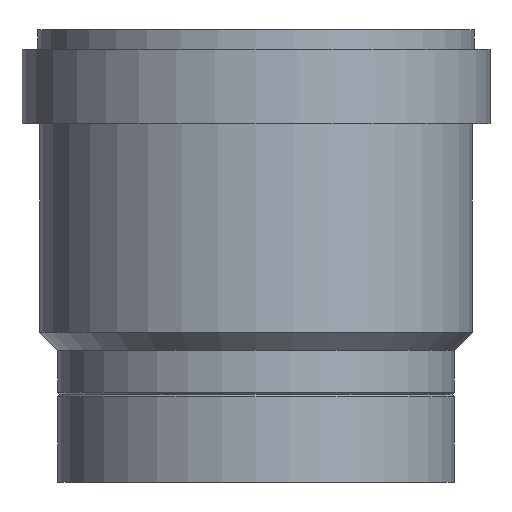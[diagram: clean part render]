
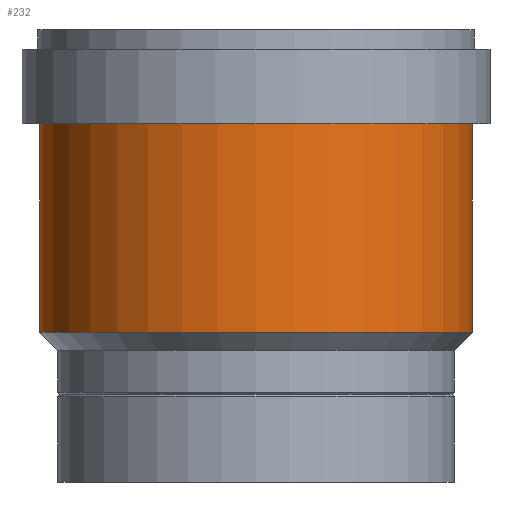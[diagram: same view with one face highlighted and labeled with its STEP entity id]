
A CAD part, front view. The second image highlights one B-rep face of the part: STEP entity #232.
In plain terms, the highlighted cylindrical face has radius 49.25 mm (diameter 98.5 mm), a full revolution.
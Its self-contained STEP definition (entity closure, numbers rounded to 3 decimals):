
#23=CYLINDRICAL_SURFACE('',#281,49.25);
#37=FACE_BOUND('',#84,.T.);
#56=FACE_OUTER_BOUND('',#83,.T.);
#83=EDGE_LOOP('',(#178));
#84=EDGE_LOOP('',(#179));
#114=CIRCLE('',#280,49.25);
#115=CIRCLE('',#282,49.25);
#133=VERTEX_POINT('',#406);
#134=VERTEX_POINT('',#409);
#152=EDGE_CURVE('',#133,#133,#114,.T.);
#153=EDGE_CURVE('',#134,#134,#115,.T.);
#178=ORIENTED_EDGE('',*,*,#152,.T.);
#179=ORIENTED_EDGE('',*,*,#153,.F.);
#232=ADVANCED_FACE('',(#56,#37),#23,.T.);
#280=AXIS2_PLACEMENT_3D('',#407,#337,#338);
#281=AXIS2_PLACEMENT_3D('',#408,#339,#340);
#282=AXIS2_PLACEMENT_3D('',#410,#341,#342);
#337=DIRECTION('center_axis',(0.,0.,-1.));
#338=DIRECTION('ref_axis',(1.,0.,0.));
#339=DIRECTION('center_axis',(0.,0.,-1.));
#340=DIRECTION('ref_axis',(-1.,0.,0.));
#341=DIRECTION('center_axis',(0.,0.,-1.));
#342=DIRECTION('ref_axis',(1.,0.,0.));
#406=CARTESIAN_POINT('',(-49.25,0.,-21.4));
#407=CARTESIAN_POINT('Origin',(0.,0.,-21.4));
#408=CARTESIAN_POINT('Origin',(0.,0.,-45.15));
#409=CARTESIAN_POINT('',(-49.25,0.,-68.9));
#410=CARTESIAN_POINT('Origin',(0.,0.,-68.9));
